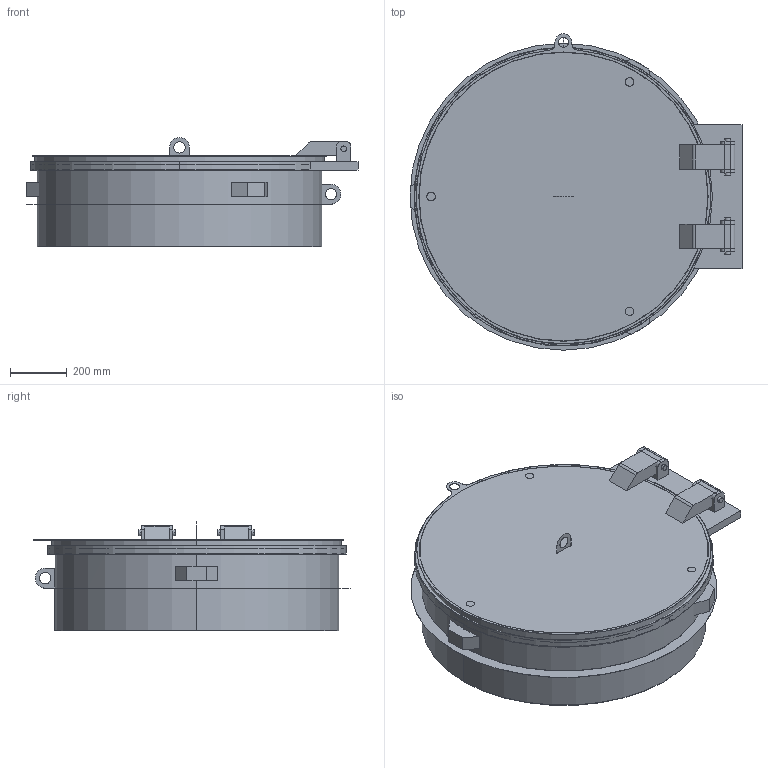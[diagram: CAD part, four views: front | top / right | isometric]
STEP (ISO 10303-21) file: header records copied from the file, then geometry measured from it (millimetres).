
FILE_DESCRIPTION((''),'2;1');
FILE_NAME('52471725','2025-10-30T08:41:02',('stat'),('HUBER SE'),'CREO PARAMETRIC BY PTC INC, 2022162','CREO PARAMETRIC BY PTC INC, 2022162','');
FILE_SCHEMA(('AUTOMOTIVE_DESIGN { 1 0 10303 214 1 1 1 1 }'));
Length unit declared in the file: millimetre
Products named in the file (1): 52471725
Bounding box: 1172.5 x 1117 x 385 mm (x, y, z)
Volume: 9933313.9 mm3; surface area: 5149854.5 mm2
Topology: 8 solids, 8 shells, 180 faces, 416 edges, 276 vertices
Faces by surface type: plane 110, cylinder 70
Entity records: 7191 total; most frequent: DIRECTION 930, CARTESIAN_POINT 874, ORIENTED_EDGE 832, PRESENTATION_STYLE_ASSIGNMENT 430, STYLED_ITEM 424, CURVE_STYLE 416, EDGE_CURVE 416, AXIS2_PLACEMENT_3D 334
